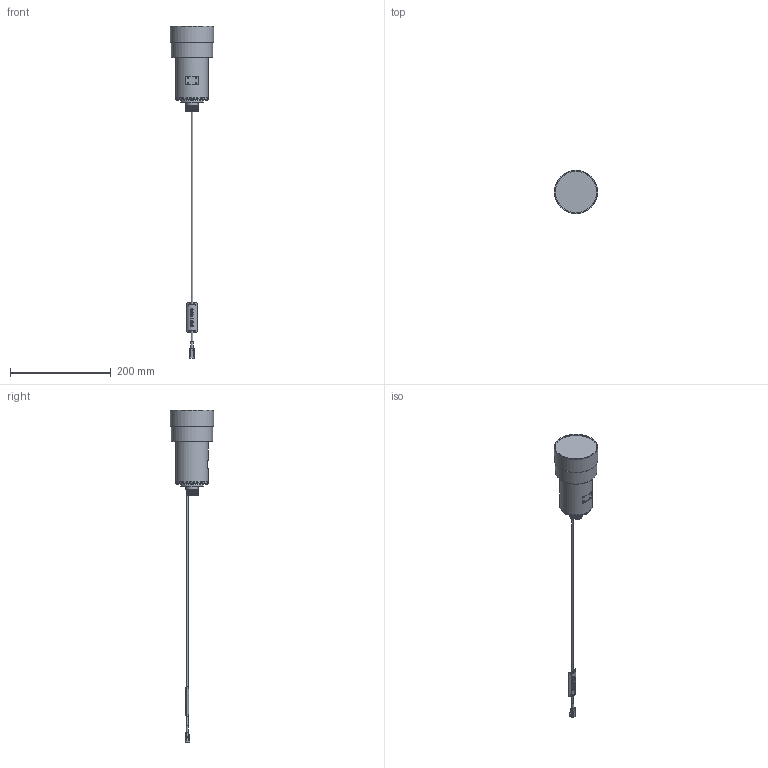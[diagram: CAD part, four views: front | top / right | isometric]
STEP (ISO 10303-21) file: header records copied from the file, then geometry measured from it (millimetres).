
FILE_DESCRIPTION (( 'STEP AP203' ), '1' );
FILE_NAME ('drawing_mti-65-cg-070.STEP', '2016-12-02T04:28:17', ( '' ), ( '' ), 'SwSTEP 2.0', 'SolidWorks 2014', '' );
FILE_SCHEMA (( 'CONFIG_CONTROL_DESIGN' ));
Length unit declared in the file: millimetre
Products named in the file (1): drawing_mti-65-cg-070
Bounding box: 86 x 86 x 658 mm (x, y, z)
Volume: 631993.5 mm3; surface area: 59169.4 mm2
Topology: 2 solids, 2 shells, 410 faces, 1186 edges, 815 vertices
Faces by surface type: plane 228, cylinder 143, cone 26, torus 13
Full cylindrical faces by diameter (mm): 2 x8, 2.5 x7, 3.1 x1, 3.8 x7, 4 x1, 4.4 x3, 8 x8, 24 x1, 44 x1, 45 x1, 64 x1, 65 x1, 82 x1, 82.25 x1, 86 x1
Entity records: 16302 total; most frequent: CARTESIAN_POINT 5813, ORIENTED_EDGE 2134, DIRECTION 2109, EDGE_CURVE 1067, AXIS2_PLACEMENT_3D 784, VERTEX_POINT 774, EDGE_LOOP 555, LINE 541
